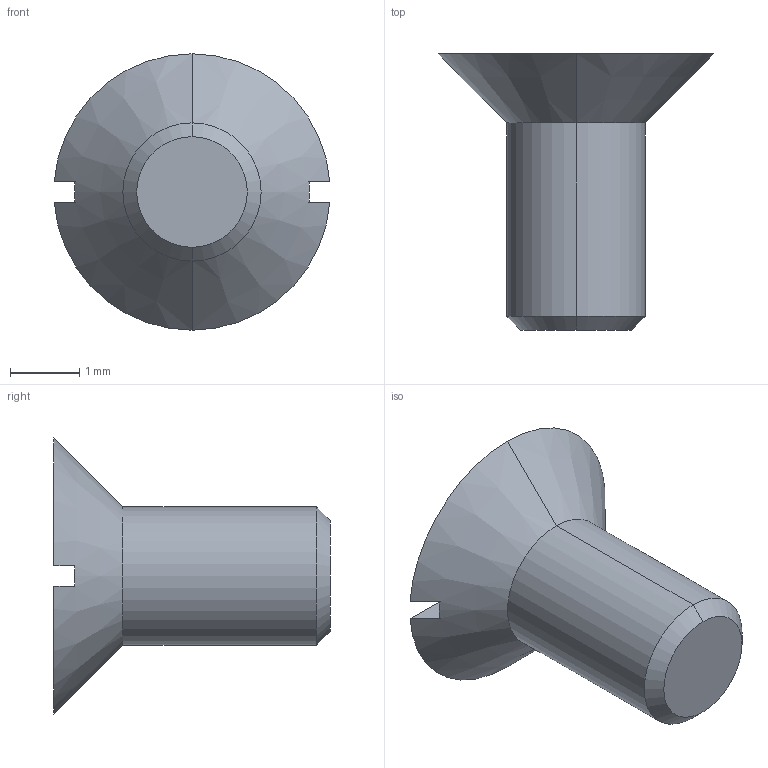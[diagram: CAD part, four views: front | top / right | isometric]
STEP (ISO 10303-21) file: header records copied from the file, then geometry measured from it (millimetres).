
FILE_DESCRIPTION (( 'STEP AP214' ), '1' );
FILE_NAME ('vite M2 x 4.STEP', '2016-02-26T10:56:01', ( '' ), ( '' ), 'SwSTEP 2.0', 'SolidWorks 2012', '' );
FILE_SCHEMA (( 'AUTOMOTIVE_DESIGN' ));
Length unit declared in the file: millimetre
Products named in the file (1): vite M2 x 4
Bounding box: 3.99 x 4 x 4 mm (x, y, z)
Volume: 16.3 mm3; surface area: 48.9 mm2
Topology: 1 solids, 1 shells, 12 faces, 26 edges, 16 vertices
Faces by surface type: plane 6, cone 4, cylinder 2
Entity records: 368 total; most frequent: CARTESIAN_POINT 67, DIRECTION 60, ORIENTED_EDGE 52, EDGE_CURVE 26, AXIS2_PLACEMENT_3D 25, VERTEX_POINT 16, FACE_OUTER_BOUND 12, CIRCLE 12
